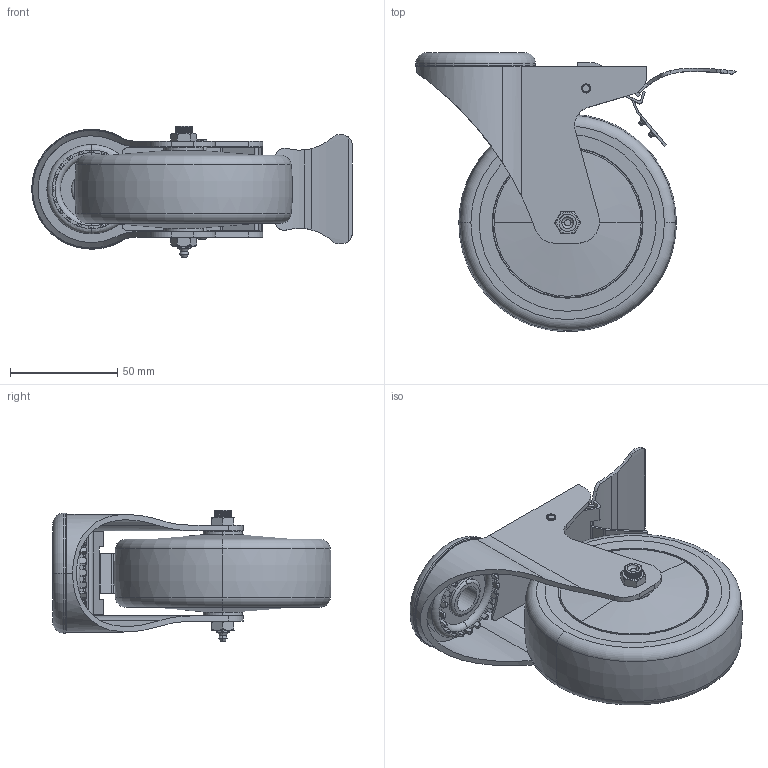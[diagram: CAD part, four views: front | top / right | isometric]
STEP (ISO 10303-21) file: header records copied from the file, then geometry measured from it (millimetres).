
FILE_DESCRIPTION (( 'STEP AP214' ), '1' );
FILE_NAME ('SCC-BHTTL20S414-TPRB 3D STEP.STEP', '2024-09-11T04:58:24', ( '' ), ( '' ), 'SwSTEP 2.0', 'SolidWorks 2016', '' );
FILE_SCHEMA (( 'AUTOMOTIVE_DESIGN' ));
Length unit declared in the file: inch
Products named in the file (1): SCC-BHTTL20S414-TPRB 3D STEP
Bounding box: 149.54 x 130.01 x 61.2 mm (x, y, z)
Volume: 353816.2 mm3; surface area: 88475.8 mm2
Topology: 3 solids, 3 shells, 578 faces, 1458 edges, 915 vertices
Faces by surface type: plane 232, cylinder 207, torus 60, bspline 45, cone 22, sphere 12
Entity records: 29210 total; most frequent: CARTESIAN_POINT 7990, ORIENTED_EDGE 2916, DIRECTION 2778, EDGE_CURVE 1458, AXIS2_PLACEMENT_3D 1046, VERTEX_POINT 915, VECTOR 686, LINE 686
